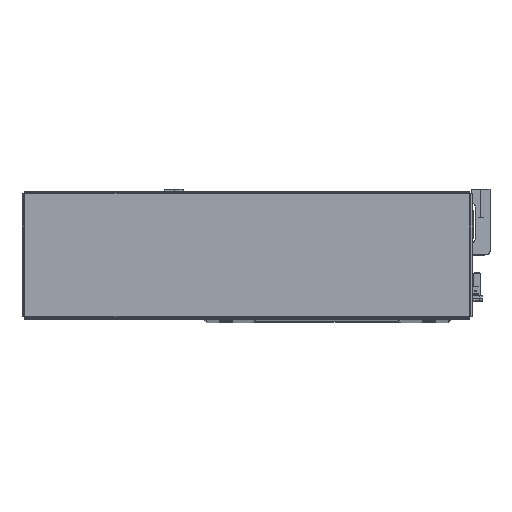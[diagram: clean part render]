
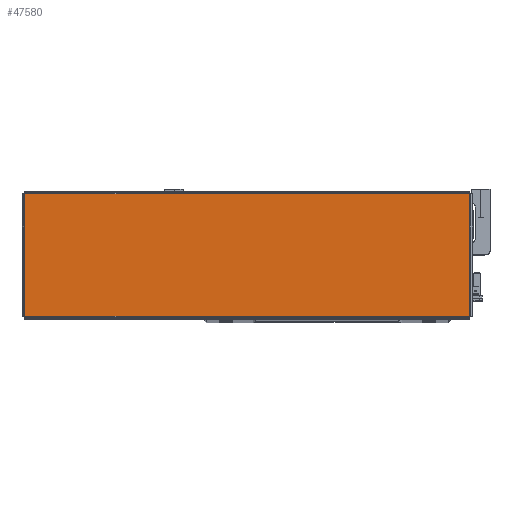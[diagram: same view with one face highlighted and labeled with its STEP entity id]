
A CAD part, top view. The second image highlights one B-rep face of the part: STEP entity #47580.
In plain terms, the highlighted planar face has unit normal (0, 0, 1) as drawn and (0, -1, 0) by its records, which use the part's own axes.
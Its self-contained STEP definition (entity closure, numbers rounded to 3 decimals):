
#1073 = FACE_OUTER_BOUND ( 'NONE', #1431, .T. ) ;
#1431 = EDGE_LOOP ( 'NONE', ( #37045, #37119, #37042, #37282 ) ) ;
#3422 = CARTESIAN_POINT ( 'NONE',  ( -154.013, -1.2, 42.263 ) ) ;
#3428 = CARTESIAN_POINT ( 'NONE',  ( 154.013, -1.2, -42.263 ) ) ;
#3434 = CARTESIAN_POINT ( 'NONE',  ( -154.013, -1.2, -42.263 ) ) ;
#3474 = CARTESIAN_POINT ( 'NONE',  ( 154.013, -1.2, 42.263 ) ) ;
#6651 = PLANE ( 'NONE',  #25576 ) ;
#6661 = CARTESIAN_POINT ( 'NONE',  ( 0., -1.2, 0. ) ) ;
#6663 = DIRECTION ( 'NONE',  ( 0., 1., 0. ) ) ;
#6698 = DIRECTION ( 'NONE',  ( 0., 0., 1. ) ) ;
#9863 = CARTESIAN_POINT ( 'NONE',  ( 154.043, -1.2, 42.263 ) ) ;
#9875 = DIRECTION ( 'NONE',  ( -1., 0., 0. ) ) ;
#9877 = CARTESIAN_POINT ( 'NONE',  ( -154.013, -1.2, 42.293 ) ) ;
#9898 = DIRECTION ( 'NONE',  ( 0., 0., -1. ) ) ;
#9906 = CARTESIAN_POINT ( 'NONE',  ( -154.043, -1.2, -42.263 ) ) ;
#9910 = DIRECTION ( 'NONE',  ( 0., 0., 1. ) ) ;
#9919 = DIRECTION ( 'NONE',  ( 1., 0., 0. ) ) ;
#9936 = CARTESIAN_POINT ( 'NONE',  ( 154.013, -1.2, -42.293 ) ) ;
#14382 = EDGE_CURVE ( 'NONE', #41297, #41163, #19229, .T. ) ;
#14383 = EDGE_CURVE ( 'NONE', #41163, #41152, #19247, .T. ) ;
#14404 = EDGE_CURVE ( 'NONE', #41224, #41297, #19270, .T. ) ;
#14405 = EDGE_CURVE ( 'NONE', #41152, #41224, #19271, .T. ) ;
#19229 = LINE ( 'NONE', #9863, #19296 ) ;
#19238 = VECTOR ( 'NONE', #9898, 1000. ) ;
#19240 = VECTOR ( 'NONE', #9919, 1000. ) ;
#19247 = LINE ( 'NONE', #9877, #19238 ) ;
#19270 = LINE ( 'NONE', #9936, #19292 ) ;
#19271 = LINE ( 'NONE', #9906, #19240 ) ;
#19292 = VECTOR ( 'NONE', #9910, 1000. ) ;
#19296 = VECTOR ( 'NONE', #9875, 1000. ) ;
#25576 = AXIS2_PLACEMENT_3D ( 'NONE', #6661, #6663, #6698 ) ;
#37042 = ORIENTED_EDGE ( 'NONE', *, *, #14383, .T. ) ;
#37045 = ORIENTED_EDGE ( 'NONE', *, *, #14404, .T. ) ;
#37119 = ORIENTED_EDGE ( 'NONE', *, *, #14382, .T. ) ;
#37282 = ORIENTED_EDGE ( 'NONE', *, *, #14405, .T. ) ;
#41152 = VERTEX_POINT ( 'NONE', #3434 ) ;
#41163 = VERTEX_POINT ( 'NONE', #3422 ) ;
#41224 = VERTEX_POINT ( 'NONE', #3428 ) ;
#41297 = VERTEX_POINT ( 'NONE', #3474 ) ;
#47580 = ADVANCED_FACE ( 'NONE', ( #1073 ), #6651, .F. ) ;
